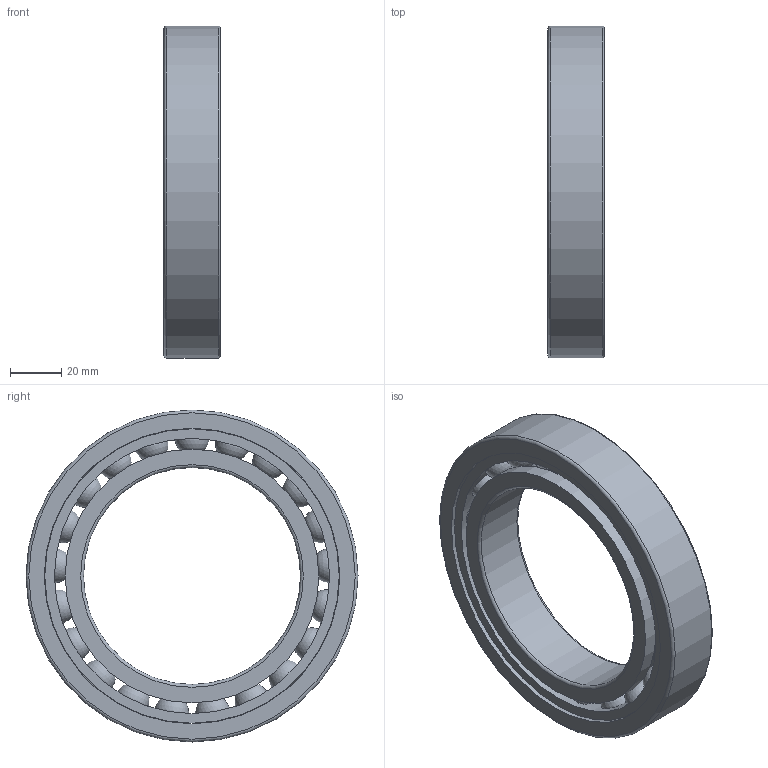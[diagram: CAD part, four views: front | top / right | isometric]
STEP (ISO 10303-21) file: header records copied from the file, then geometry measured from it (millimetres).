
FILE_DESCRIPTION(/* description */ (''),/* implementation_level */ '2;1');
FILE_NAME(/* name */ 'S_6017_TA.step',/* time_stamp */ '2013-03-06T14:43:37+01:00',/* author */ ('Marian'),/* organization */ ('GMN'),/* preprocessor_version */ 'ST-DEVELOPER v11',/* originating_system */ 'SIEMENS UGS NX 6.0',/* authorisation */ '');
FILE_SCHEMA (('CONFIG_CONTROL_DESIGN'));
Length unit declared in the file: millimetre
Products named in the file (1): S_6017_TA
Bounding box: 22 x 130 x 130 mm (x, y, z)
Volume: 125570.7 mm3; surface area: 63949.7 mm2
Topology: 24 solids, 24 shells, 62 faces, 160 edges, 104 vertices
Faces by surface type: cylinder 28, sphere 21, torus 6, plane 6, cone 1
Full cylindrical faces by diameter (mm): 13.694 x21, 85 x1, 99.3 x2, 107.774 x1, 115.3 x1, 115.7 x1, 130 x1
Entity records: 2052 total; most frequent: CARTESIAN_POINT 922, DIRECTION 166, FACE_BOUND 145, EDGE_LOOP 124, ORIENTED_EDGE 124, VERTEX_POINT 83, AXIS2_PLACEMENT_3D 83, EDGE_CURVE 62
